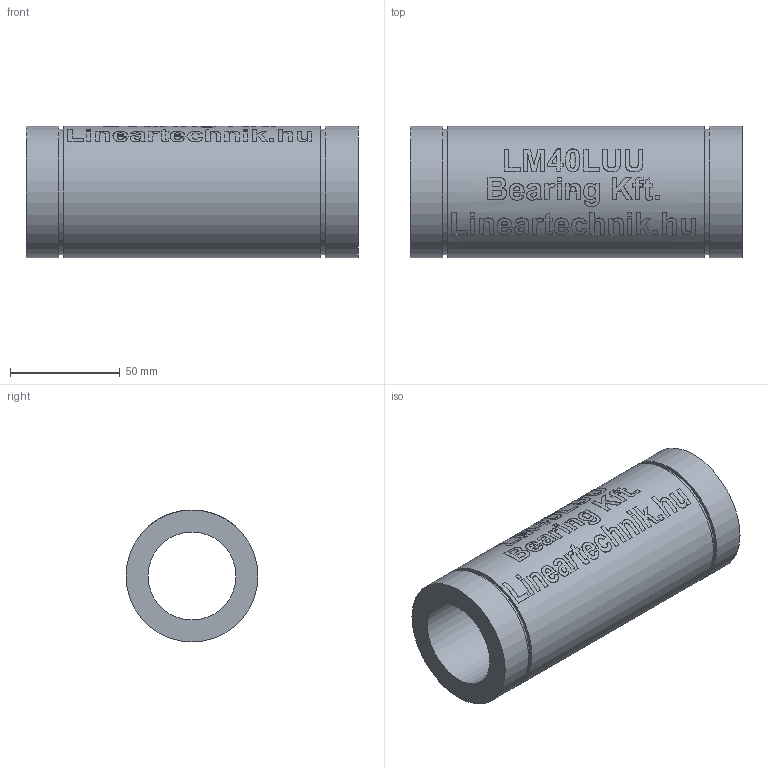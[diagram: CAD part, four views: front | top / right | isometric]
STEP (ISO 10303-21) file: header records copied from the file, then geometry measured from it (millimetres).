
FILE_DESCRIPTION(/* description */ (''),/* implementation_level */ '2;1');
FILE_NAME(/* name */ 'LM40LUU',/* time_stamp */ '2019-05-16T09:38:56+02:00',/* author */ ('VĂ©gh MĂˇtĂ©'),/* organization */ ('Bearing Kft'),/* preprocessor_version */ 'ST-DEVELOPER v16.7',/* originating_system */ 'DEX',/* authorisation */ $);
FILE_SCHEMA (('TECHNICAL_DATA_PACKAGING','AUTOMOTIVE_DESIGN {1 0 10303 214 3 1 1}'));
Length unit declared in the file: millimetre
Products named in the file (1): LM40LUU
Bounding box: 151 x 60 x 60 mm (x, y, z)
Volume: 235917.2 mm3; surface area: 51779.6 mm2
Topology: 1 solids, 1 shells, 316 faces, 821 edges, 548 vertices
Faces by surface type: plane 169, bspline 92, cylinder 55
Full cylindrical faces by diameter (mm): 40 x1, 57 x2, 60 x3
Entity records: 26379 total; most frequent: CARTESIAN_POINT 19360, ORIENTED_EDGE 1548, DIRECTION 1182, EDGE_CURVE 774, VERTEX_POINT 522, LINE 428, VECTOR 428, AXIS2_PLACEMENT_3D 377
